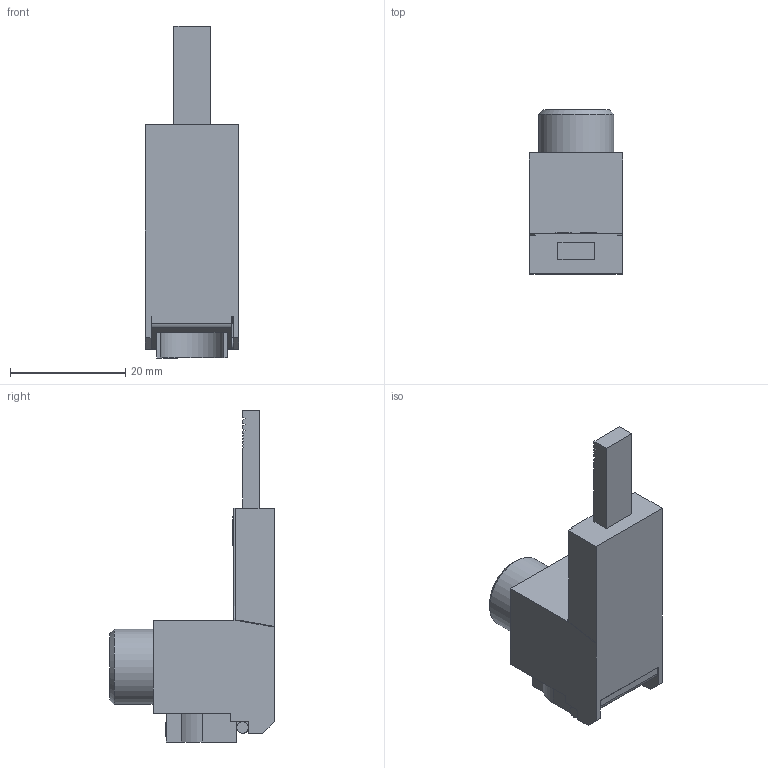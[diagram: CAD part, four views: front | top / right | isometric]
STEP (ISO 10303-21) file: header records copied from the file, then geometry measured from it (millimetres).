
FILE_DESCRIPTION((''),'2;1');
FILE_NAME('C:\Users\N.Sziegat\Desktop\PDF-Store\STP-802-322.stp','2014-04-16T13:50:57',(''),('FTG Goehringer GmbH'),'Autodesk Inventor 2012','Autodesk Inventor 2012','');
FILE_SCHEMA(('AUTOMOTIVE_DESIGN { 1 0 10303 214 1 1 1 1 }'));
Length unit declared in the file: millimetre
Products named in the file (1): 802-322
Bounding box: 16.25 x 28.5 x 57.5 mm (x, y, z)
Volume: 8705.1 mm3; surface area: 4851.2 mm2
Topology: 1 solids, 1 shells, 252 faces, 703 edges, 467 vertices
Faces by surface type: plane 179, bspline 38, cone 18, cylinder 17
Full cylindrical faces by diameter (mm): 2 x2, 7 x1, 10 x1, 10.5 x1, 11 x1, 13 x1
Entity records: 8569 total; most frequent: CARTESIAN_POINT 2103, ORIENTED_EDGE 1400, DIRECTION 1087, EDGE_CURVE 700, VECTOR 507, LINE 507, VERTEX_POINT 464, AXIS2_PLACEMENT_3D 290
